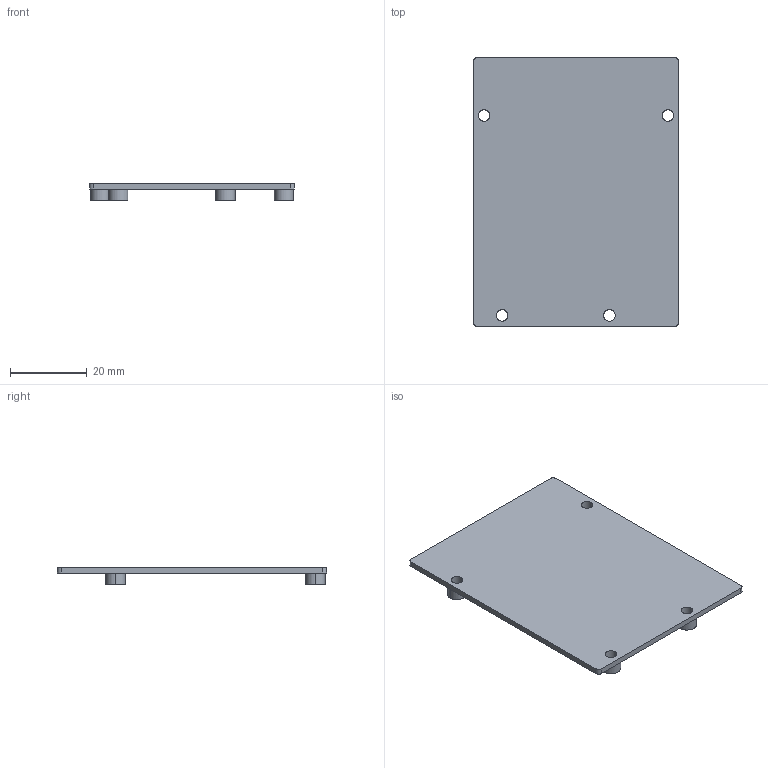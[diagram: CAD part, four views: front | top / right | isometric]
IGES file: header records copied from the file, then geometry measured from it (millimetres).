
Start section: SolidWorks IGES file using analytic representation for surfaces
Global section: file name: C:\Users\fablab-info\Desktop\Miroir cylindro-parabolique\IGS 3D\suport arduino.IGS; native system: SolidWorks 2017; preprocessor: SolidWorks 2017; author: fablab-info; date: 190712.155431; units: millimetre
Bounding box: 53.3 x 70 x 4.5 mm (x, y, z)
Surface area: 8129.2 mm2 (no closed solid volume)
Topology: 0 solids, 0 shells, 30 faces, 680 edges, 680 vertices
Faces by surface type: revolution 20, bspline 10
